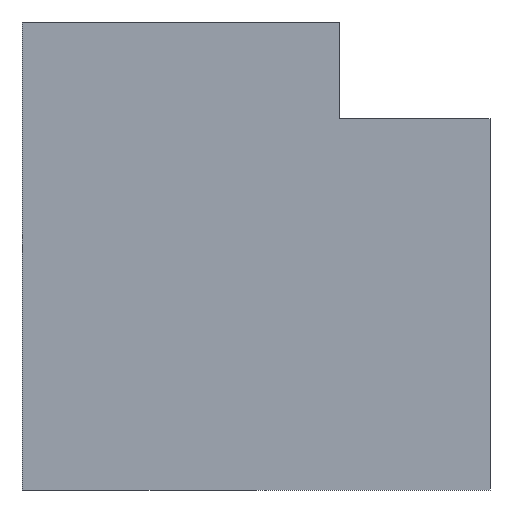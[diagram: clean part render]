
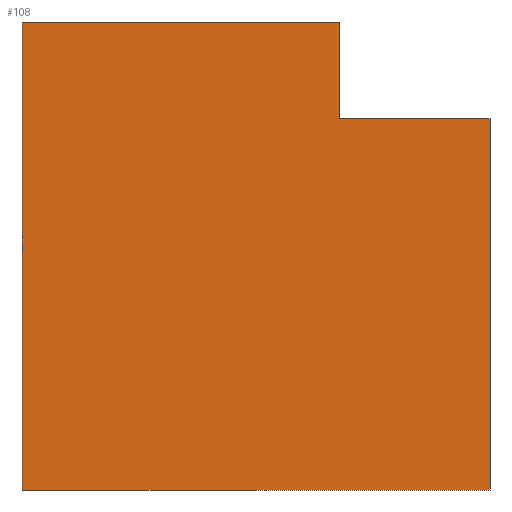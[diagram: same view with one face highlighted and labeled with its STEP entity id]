
A CAD part, left-side view. The second image highlights one B-rep face of the part: STEP entity #108.
In plain terms, the highlighted planar face has unit normal (-1, 0, 0).
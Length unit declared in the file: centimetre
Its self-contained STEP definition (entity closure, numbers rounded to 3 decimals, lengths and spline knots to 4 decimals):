
#27 = DIRECTION ( 'NONE',  ( 0., 0., -1. ) ) ;
#34 = VERTEX_POINT ( 'NONE', #186 ) ;
#42 = VERTEX_POINT ( 'NONE', #67 ) ;
#45 = DIRECTION ( 'NONE',  ( 0., -1., 0. ) ) ;
#67 = CARTESIAN_POINT ( 'NONE',  ( 0., 321.202, 1000. ) ) ;
#75 = DIRECTION ( 'NONE',  ( 0., 0., -1. ) ) ;
#97 = ORIENTED_EDGE ( 'NONE', *, *, #340, .F. ) ;
#106 = LINE ( 'NONE', #488, #497 ) ;
#108 = ADVANCED_FACE ( 'NONE', ( #250 ), #461, .F. ) ;
#113 = VERTEX_POINT ( 'NONE', #387 ) ;
#114 = CARTESIAN_POINT ( 'NONE',  ( 0., 1000., 1000. ) ) ;
#121 = EDGE_CURVE ( 'NONE', #383, #191, #153, .T. ) ;
#129 = DIRECTION ( 'NONE',  ( 0., -1., 0. ) ) ;
#135 = VECTOR ( 'NONE', #498, 100. ) ;
#153 = LINE ( 'NONE', #184, #449 ) ;
#179 = ORIENTED_EDGE ( 'NONE', *, *, #234, .T. ) ;
#180 = CARTESIAN_POINT ( 'NONE',  ( 0., 0., 792.9699 ) ) ;
#184 = CARTESIAN_POINT ( 'NONE',  ( 0., 0., 1000. ) ) ;
#186 = CARTESIAN_POINT ( 'NONE',  ( 0., 1000., 1000. ) ) ;
#189 = EDGE_LOOP ( 'NONE', ( #471, #97, #496, #359, #203, #179 ) ) ;
#191 = VERTEX_POINT ( 'NONE', #222 ) ;
#202 = CARTESIAN_POINT ( 'NONE',  ( 0., 1000., 1000. ) ) ;
#203 = ORIENTED_EDGE ( 'NONE', *, *, #472, .T. ) ;
#219 = DIRECTION ( 'NONE',  ( 0., 0., -1. ) ) ;
#222 = CARTESIAN_POINT ( 'NONE',  ( 0., 0., 0. ) ) ;
#229 = VERTEX_POINT ( 'NONE', #354 ) ;
#230 = DIRECTION ( 'NONE',  ( 0., 0., -1. ) ) ;
#234 = EDGE_CURVE ( 'NONE', #229, #191, #316, .T. ) ;
#250 = FACE_OUTER_BOUND ( 'NONE', #189, .T. ) ;
#254 = LINE ( 'NONE', #202, #282 ) ;
#268 = CARTESIAN_POINT ( 'NONE',  ( 0., 1000., 1000. ) ) ;
#272 = DIRECTION ( 'NONE',  ( 1., 0., 0. ) ) ;
#282 = VECTOR ( 'NONE', #129, 100. ) ;
#316 = LINE ( 'NONE', #423, #135 ) ;
#337 = EDGE_CURVE ( 'NONE', #34, #42, #254, .T. ) ;
#340 = EDGE_CURVE ( 'NONE', #113, #383, #438, .T. ) ;
#343 = AXIS2_PLACEMENT_3D ( 'NONE', #114, #272, #230 ) ;
#354 = CARTESIAN_POINT ( 'NONE',  ( 0., 1000., 0. ) ) ;
#359 = ORIENTED_EDGE ( 'NONE', *, *, #337, .F. ) ;
#383 = VERTEX_POINT ( 'NONE', #180 ) ;
#387 = CARTESIAN_POINT ( 'NONE',  ( 0., 321.202, 792.9699 ) ) ;
#398 = CARTESIAN_POINT ( 'NONE',  ( 0., 321.202, 792.9699 ) ) ;
#423 = CARTESIAN_POINT ( 'NONE',  ( 0., 1000., 0. ) ) ;
#438 = LINE ( 'NONE', #398, #468 ) ;
#445 = EDGE_CURVE ( 'NONE', #42, #113, #106, .T. ) ;
#449 = VECTOR ( 'NONE', #75, 100. ) ;
#453 = LINE ( 'NONE', #268, #487 ) ;
#461 = PLANE ( 'NONE',  #343 ) ;
#468 = VECTOR ( 'NONE', #45, 100. ) ;
#471 = ORIENTED_EDGE ( 'NONE', *, *, #121, .F. ) ;
#472 = EDGE_CURVE ( 'NONE', #34, #229, #453, .T. ) ;
#487 = VECTOR ( 'NONE', #27, 100. ) ;
#488 = CARTESIAN_POINT ( 'NONE',  ( 0., 321.202, 792.9699 ) ) ;
#496 = ORIENTED_EDGE ( 'NONE', *, *, #445, .F. ) ;
#497 = VECTOR ( 'NONE', #219, 100. ) ;
#498 = DIRECTION ( 'NONE',  ( 0., -1., 0. ) ) ;
